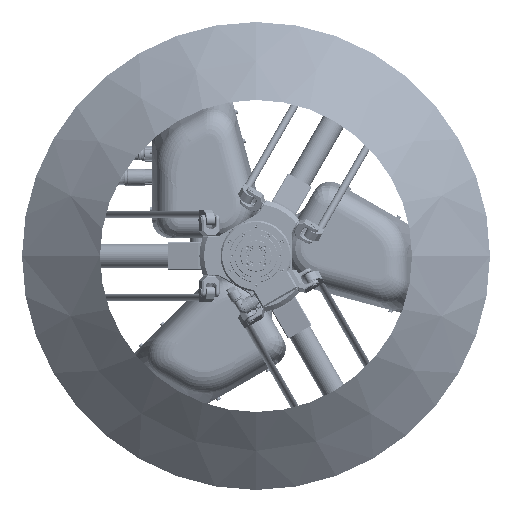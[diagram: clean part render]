
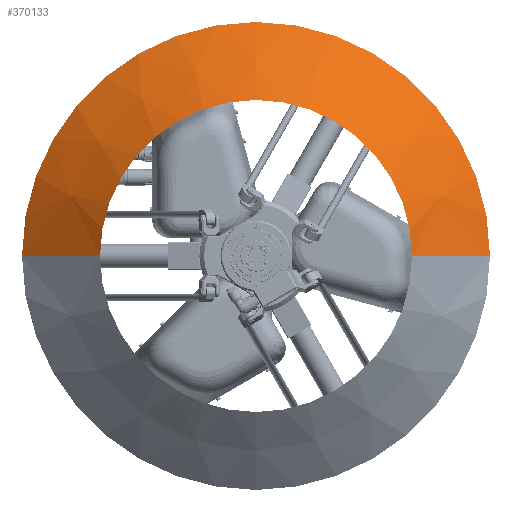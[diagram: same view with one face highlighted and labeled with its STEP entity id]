
A CAD part, front view. The second image highlights one B-rep face of the part: STEP entity #370133.
In plain terms, the highlighted conical face has half-angle 51.34 degrees and reference radius 250 mm.
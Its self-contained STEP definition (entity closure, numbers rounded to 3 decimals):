
#370060=DIRECTION('',(0.781,-0.625,0.));
#370061=VECTOR('',#370060,128.062);
#370062=CARTESIAN_POINT('',(-300.,-595.,0.));
#370063=LINE('',#370062,#370061);
#370064=CARTESIAN_POINT('',(0.,-595.,0.));
#370065=DIRECTION('',(0.,1.,0.));
#370066=DIRECTION('',(-1.,0.,0.));
#370067=AXIS2_PLACEMENT_3D('',#370064,#370065,#370066);
#370069=DIRECTION('',(-0.781,-0.625,0.));
#370070=VECTOR('',#370069,128.062);
#370071=CARTESIAN_POINT('',(300.,-595.,0.));
#370072=LINE('',#370071,#370070);
#370073=CARTESIAN_POINT('',(0.,-675.,0.));
#370074=DIRECTION('',(0.,-1.,0.));
#370075=DIRECTION('',(1.,0.,0.));
#370076=AXIS2_PLACEMENT_3D('',#370073,#370074,#370075);
#370107=CARTESIAN_POINT('',(-300.,-595.,0.));
#370109=VERTEX_POINT('',#370107);
#370110=CARTESIAN_POINT('',(-200.,-675.,0.));
#370111=VERTEX_POINT('',#370110);
#370113=CARTESIAN_POINT('',(300.,-595.,0.));
#370115=VERTEX_POINT('',#370113);
#370116=CARTESIAN_POINT('',(200.,-675.,0.));
#370117=VERTEX_POINT('',#370116);
#370118=CARTESIAN_POINT('',(0.,-635.,0.));
#370119=DIRECTION('',(0.,1.,0.));
#370120=DIRECTION('',(1.,0.,0.));
#370121=AXIS2_PLACEMENT_3D('',#370118,#370119,#370120);
#370122=CONICAL_SURFACE('',#370121,250.,51.34);
#370124=ORIENTED_EDGE('',*,*,#370123,.F.);
#370126=ORIENTED_EDGE('',*,*,#370125,.T.);
#370128=ORIENTED_EDGE('',*,*,#370127,.T.);
#370130=ORIENTED_EDGE('',*,*,#370129,.T.);
#370131=EDGE_LOOP('',(#370124,#370126,#370128,#370130));
#370132=FACE_OUTER_BOUND('',#370131,.F.);
#370133=ADVANCED_FACE('',(#370132),#370122,.T.);
#370068=CIRCLE('',#370067,300.);
#370077=CIRCLE('',#370076,200.);
#370123=EDGE_CURVE('',#370109,#370111,#370063,.T.);
#370125=EDGE_CURVE('',#370109,#370115,#370068,.T.);
#370127=EDGE_CURVE('',#370115,#370117,#370072,.T.);
#370129=EDGE_CURVE('',#370117,#370111,#370077,.T.);
